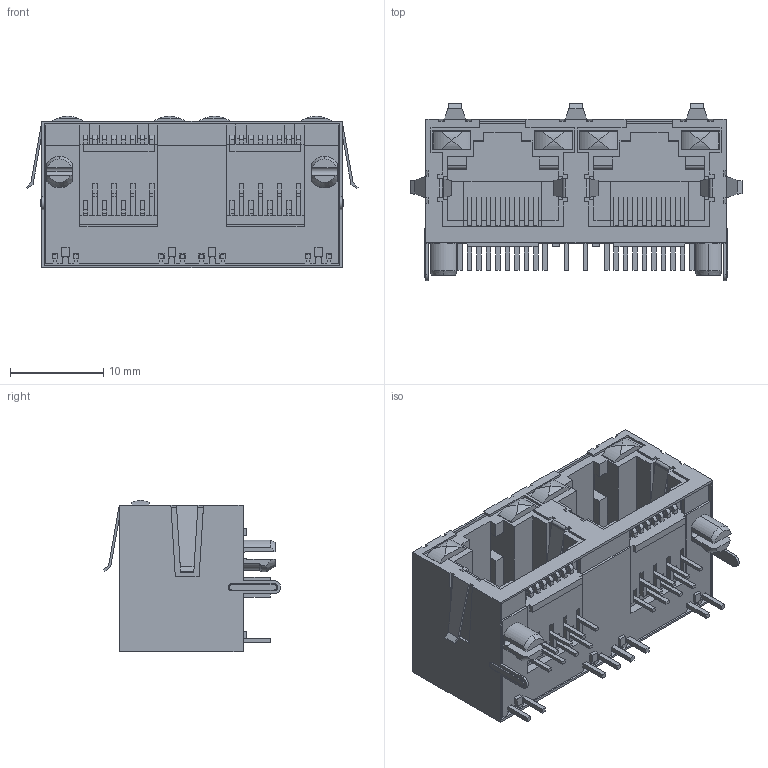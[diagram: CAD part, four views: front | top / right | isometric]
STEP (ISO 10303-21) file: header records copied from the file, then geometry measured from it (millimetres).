
FILE_DESCRIPTION (( 'STEP AP203' ), '1' );
FILE_NAME ('8949-AL1882-06S1PBA-1130805.STEP', '2024-08-05T03:52:40', ( '' ), ( '' ), 'SwSTEP 2.0', 'SolidWorks 2019', '' );
FILE_SCHEMA (( 'CONFIG_CONTROL_DESIGN' ));
Length unit declared in the file: millimetre
Products named in the file (10): 8949-AL1882-50S1EBA-1110318.STEP; LED2_1.STEP; LED2.STEP; 8209-2230N.STEP; LED1.STEP; 5139-881X-C-LFG_1.STEP; 76168-029.STEP; 8949-AL1882-06S1PBA-1130805; LED1_1.STEP; 5139-881X-C-LFG.STEP
Assembly tree (9 placements, depth 3):
  8949-AL1882-06S1PBA-1130805
    8949-AL1882-50S1EBA-1110318.STEP
      76168-029.STEP
      5139-881X-C-LFG.STEP
      LED1.STEP
      LED2.STEP
      5139-881X-C-LFG_1.STEP
      LED1_1.STEP
      LED2_1.STEP
      8209-2230N.STEP
Bounding box: 35.66 x 19.03 x 16.25 mm (x, y, z)
Volume: 4030 mm3; surface area: 8308.4 mm2
Topology: 8 solids, 8 shells, 1008 faces, 2783 edges, 1823 vertices
Faces by surface type: plane 872, cylinder 117, cone 14, bspline 5
Entity records: 33098 total; most frequent: CARTESIAN_POINT 6343, ORIENTED_EDGE 5566, DIRECTION 4930, EDGE_CURVE 2783, VECTOR 2500, LINE 2500, VERTEX_POINT 1823, AXIS2_PLACEMENT_3D 1215
